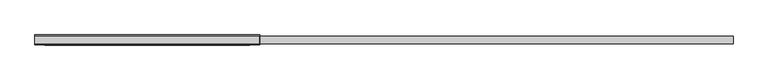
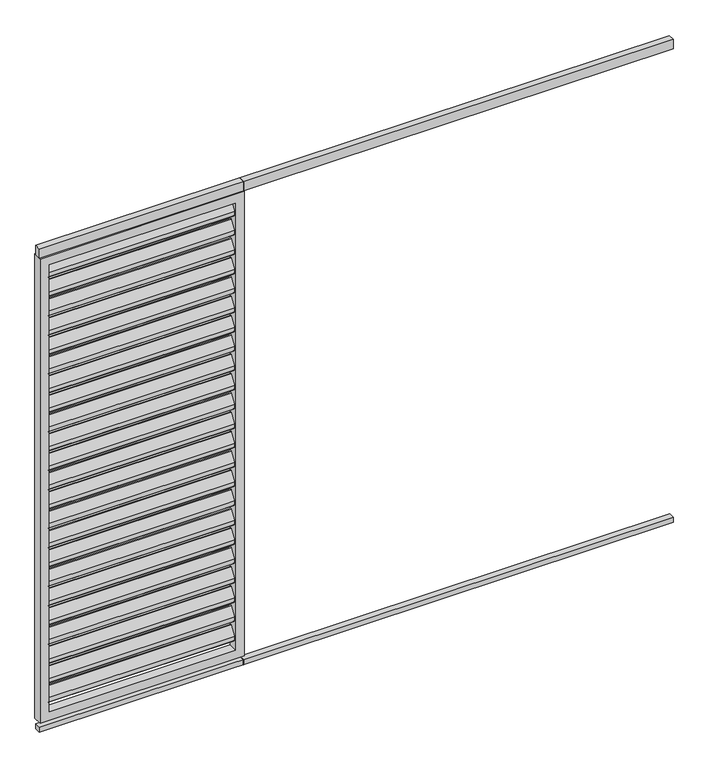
"""IFC4 building model written with IfcOpenShell, lengths in millimetres: proxy geometry, Renson_Camargue_Loggia_Paro_Aluminium : Renson_Camargue_Loggia_Paro_Aluminium."""

from ifc_helpers import new_model, si_unit, point, frame, frame_2d, origin, origin_with_axes, place, context, project, spatial, polyline, circle_curve, trimmed, segment, composite_curve, outline, extrude, source, transform, mapped, element, save


def generic_models_86cdeedc(model_context):
    return source(origin(), model_context, "Body", "SweptSolid", [
        extrude(outline(composite_curve([segment(trimmed(circle_curve(frame_2d((12.6675921, 2162.6587719)), 3.0), [point((10.1515804, 2164.292689))], [point((15.6675921, 2162.6587719))], False, "CARTESIAN"), True, "CONTINUOUS"), segment(polyline([(15.6675921, 2162.6587719), (15.6675921, 2144.2979873)]), True, "CONTINUOUS"), segment(trimmed(circle_curve(frame_2d((12.6675921, 2144.2979873)), 3.0), [point((15.6675921, 2144.2979873))], [point((15.1836038, 2142.6640702))], False, "CARTESIAN"), True, "CONTINUOUS"), segment(polyline([(15.1836038, 2142.6640702), (-8.8163962, 2105.707311)]), True, "CONTINUOUS"), segment(trimmed(circle_curve(frame_2d((-11.3324079, 2107.3412281)), 3.0), [point((-8.8163962, 2105.707311))], [point((-14.3324079, 2107.3412281))], False, "CARTESIAN"), True, "CONTINUOUS"), segment(polyline([(-14.3324079, 2107.3412281), (-14.3324079, 2126.5906532), (10.1515804, 2164.292689)]), True, "CONTINUOUS")], self_intersect=False)), frame((-410.0, 0.0, 0.0), z_axis=(1.0, 0.0, 0.0), x_axis=(0.0, 1.0, 0.0)), (0.0, 0.0, 1.0), 820.0),
        extrude(outline(composite_curve([segment(trimmed(circle_curve(frame_2d((12.6675921, 2072.6587719)), 3.0), [point((10.1515804, 2074.292689))], [point((15.6675921, 2072.6587719))], False, "CARTESIAN"), True, "CONTINUOUS"), segment(polyline([(15.6675921, 2072.6587719), (15.6675921, 2054.2979873)]), True, "CONTINUOUS"), segment(trimmed(circle_curve(frame_2d((12.6675921, 2054.2979873)), 3.0), [point((15.6675921, 2054.2979873))], [point((15.1836038, 2052.6640702))], False, "CARTESIAN"), True, "CONTINUOUS"), segment(polyline([(15.1836038, 2052.6640702), (-8.8163962, 2015.707311)]), True, "CONTINUOUS"), segment(trimmed(circle_curve(frame_2d((-11.3324079, 2017.3412281)), 3.0), [point((-8.8163962, 2015.707311))], [point((-14.3324079, 2017.3412281))], False, "CARTESIAN"), True, "CONTINUOUS"), segment(polyline([(-14.3324079, 2017.3412281), (-14.3324079, 2036.5906532), (10.1515804, 2074.292689)]), True, "CONTINUOUS")], self_intersect=False)), frame((-410.0, 0.0, 0.0), z_axis=(1.0, 0.0, 0.0), x_axis=(0.0, 1.0, 0.0)), (0.0, 0.0, 1.0), 820.0),
        extrude(outline(composite_curve([segment(trimmed(circle_curve(frame_2d((12.6675921, 1982.6587719)), 3.0), [point((10.1515804, 1984.292689))], [point((15.6675921, 1982.6587719))], False, "CARTESIAN"), True, "CONTINUOUS"), segment(polyline([(15.6675921, 1982.6587719), (15.6675921, 1964.2979873)]), True, "CONTINUOUS"), segment(trimmed(circle_curve(frame_2d((12.6675921, 1964.2979873)), 3.0), [point((15.6675921, 1964.2979873))], [point((15.1836038, 1962.6640702))], False, "CARTESIAN"), True, "CONTINUOUS"), segment(polyline([(15.1836038, 1962.6640702), (-8.8163962, 1925.707311)]), True, "CONTINUOUS"), segment(trimmed(circle_curve(frame_2d((-11.3324079, 1927.3412281)), 3.0), [point((-8.8163962, 1925.707311))], [point((-14.3324079, 1927.3412281))], False, "CARTESIAN"), True, "CONTINUOUS"), segment(polyline([(-14.3324079, 1927.3412281), (-14.3324079, 1946.5906532), (10.1515804, 1984.292689)]), True, "CONTINUOUS")], self_intersect=False)), frame((-410.0, 0.0, 0.0), z_axis=(1.0, 0.0, 0.0), x_axis=(0.0, 1.0, 0.0)), (0.0, 0.0, 1.0), 820.0),
        extrude(outline(composite_curve([segment(trimmed(circle_curve(frame_2d((12.6675921, 1892.6587719)), 3.0), [point((10.1515804, 1894.292689))], [point((15.6675921, 1892.6587719))], False, "CARTESIAN"), True, "CONTINUOUS"), segment(polyline([(15.6675921, 1892.6587719), (15.6675921, 1874.2979873)]), True, "CONTINUOUS"), segment(trimmed(circle_curve(frame_2d((12.6675921, 1874.2979873)), 3.0), [point((15.6675921, 1874.2979873))], [point((15.1836038, 1872.6640702))], False, "CARTESIAN"), True, "CONTINUOUS"), segment(polyline([(15.1836038, 1872.6640702), (-8.8163962, 1835.707311)]), True, "CONTINUOUS"), segment(trimmed(circle_curve(frame_2d((-11.3324079, 1837.3412281)), 3.0), [point((-8.8163962, 1835.707311))], [point((-14.3324079, 1837.3412281))], False, "CARTESIAN"), True, "CONTINUOUS"), segment(polyline([(-14.3324079, 1837.3412281), (-14.3324079, 1856.5906532), (10.1515804, 1894.292689)]), True, "CONTINUOUS")], self_intersect=False)), frame((-410.0, 0.0, 0.0), z_axis=(1.0, 0.0, 0.0), x_axis=(0.0, 1.0, 0.0)), (0.0, 0.0, 1.0), 820.0),
        extrude(outline(composite_curve([segment(trimmed(circle_curve(frame_2d((12.6675921, 1802.6587719)), 3.0), [point((10.1515804, 1804.292689))], [point((15.6675921, 1802.6587719))], False, "CARTESIAN"), True, "CONTINUOUS"), segment(polyline([(15.6675921, 1802.6587719), (15.6675921, 1784.2979873)]), True, "CONTINUOUS"), segment(trimmed(circle_curve(frame_2d((12.6675921, 1784.2979873)), 3.0), [point((15.6675921, 1784.2979873))], [point((15.1836038, 1782.6640702))], False, "CARTESIAN"), True, "CONTINUOUS"), segment(polyline([(15.1836038, 1782.6640702), (-8.8163962, 1745.707311)]), True, "CONTINUOUS"), segment(trimmed(circle_curve(frame_2d((-11.3324079, 1747.3412281)), 3.0), [point((-8.8163962, 1745.707311))], [point((-14.3324079, 1747.3412281))], False, "CARTESIAN"), True, "CONTINUOUS"), segment(polyline([(-14.3324079, 1747.3412281), (-14.3324079, 1766.5906532), (10.1515804, 1804.292689)]), True, "CONTINUOUS")], self_intersect=False)), frame((-410.0, 0.0, 0.0), z_axis=(1.0, 0.0, 0.0), x_axis=(0.0, 1.0, 0.0)), (0.0, 0.0, 1.0), 820.0),
        extrude(outline(composite_curve([segment(trimmed(circle_curve(frame_2d((12.6675921, 1712.6587719)), 3.0), [point((10.1515804, 1714.292689))], [point((15.6675921, 1712.6587719))], False, "CARTESIAN"), True, "CONTINUOUS"), segment(polyline([(15.6675921, 1712.6587719), (15.6675921, 1694.2979873)]), True, "CONTINUOUS"), segment(trimmed(circle_curve(frame_2d((12.6675921, 1694.2979873)), 3.0), [point((15.6675921, 1694.2979873))], [point((15.1836038, 1692.6640702))], False, "CARTESIAN"), True, "CONTINUOUS"), segment(polyline([(15.1836038, 1692.6640702), (-8.8163962, 1655.707311)]), True, "CONTINUOUS"), segment(trimmed(circle_curve(frame_2d((-11.3324079, 1657.3412281)), 3.0), [point((-8.8163962, 1655.707311))], [point((-14.3324079, 1657.3412281))], False, "CARTESIAN"), True, "CONTINUOUS"), segment(polyline([(-14.3324079, 1657.3412281), (-14.3324079, 1676.5906532), (10.1515804, 1714.292689)]), True, "CONTINUOUS")], self_intersect=False)), frame((-410.0, 0.0, 0.0), z_axis=(1.0, 0.0, 0.0), x_axis=(0.0, 1.0, 0.0)), (0.0, 0.0, 1.0), 820.0),
        extrude(outline(composite_curve([segment(trimmed(circle_curve(frame_2d((12.6675921, 1622.6587719)), 3.0), [point((10.1515804, 1624.292689))], [point((15.6675921, 1622.6587719))], False, "CARTESIAN"), True, "CONTINUOUS"), segment(polyline([(15.6675921, 1622.6587719), (15.6675921, 1604.2979873)]), True, "CONTINUOUS"), segment(trimmed(circle_curve(frame_2d((12.6675921, 1604.2979873)), 3.0), [point((15.6675921, 1604.2979873))], [point((15.1836038, 1602.6640702))], False, "CARTESIAN"), True, "CONTINUOUS"), segment(polyline([(15.1836038, 1602.6640702), (-8.8163962, 1565.707311)]), True, "CONTINUOUS"), segment(trimmed(circle_curve(frame_2d((-11.3324079, 1567.3412281)), 3.0), [point((-8.8163962, 1565.707311))], [point((-14.3324079, 1567.3412281))], False, "CARTESIAN"), True, "CONTINUOUS"), segment(polyline([(-14.3324079, 1567.3412281), (-14.3324079, 1586.5906532), (10.1515804, 1624.292689)]), True, "CONTINUOUS")], self_intersect=False)), frame((-410.0, 0.0, 0.0), z_axis=(1.0, 0.0, 0.0), x_axis=(0.0, 1.0, 0.0)), (0.0, 0.0, 1.0), 820.0),
        extrude(outline(composite_curve([segment(trimmed(circle_curve(frame_2d((12.6675921, 1532.6587719)), 3.0), [point((10.1515804, 1534.292689))], [point((15.6675921, 1532.6587719))], False, "CARTESIAN"), True, "CONTINUOUS"), segment(polyline([(15.6675921, 1532.6587719), (15.6675921, 1514.2979873)]), True, "CONTINUOUS"), segment(trimmed(circle_curve(frame_2d((12.6675921, 1514.2979873)), 3.0), [point((15.6675921, 1514.2979873))], [point((15.1836038, 1512.6640702))], False, "CARTESIAN"), True, "CONTINUOUS"), segment(polyline([(15.1836038, 1512.6640702), (-8.8163962, 1475.707311)]), True, "CONTINUOUS"), segment(trimmed(circle_curve(frame_2d((-11.3324079, 1477.3412281)), 3.0), [point((-8.8163962, 1475.707311))], [point((-14.3324079, 1477.3412281))], False, "CARTESIAN"), True, "CONTINUOUS"), segment(polyline([(-14.3324079, 1477.3412281), (-14.3324079, 1496.5906532), (10.1515804, 1534.292689)]), True, "CONTINUOUS")], self_intersect=False)), frame((-410.0, 0.0, 0.0), z_axis=(1.0, 0.0, 0.0), x_axis=(0.0, 1.0, 0.0)), (0.0, 0.0, 1.0), 820.0),
        extrude(outline(composite_curve([segment(trimmed(circle_curve(frame_2d((12.6675921, 1442.6587719)), 3.0), [point((10.1515804, 1444.292689))], [point((15.6675921, 1442.6587719))], False, "CARTESIAN"), True, "CONTINUOUS"), segment(polyline([(15.6675921, 1442.6587719), (15.6675921, 1424.2979873)]), True, "CONTINUOUS"), segment(trimmed(circle_curve(frame_2d((12.6675921, 1424.2979873)), 3.0), [point((15.6675921, 1424.2979873))], [point((15.1836038, 1422.6640702))], False, "CARTESIAN"), True, "CONTINUOUS"), segment(polyline([(15.1836038, 1422.6640702), (-8.8163962, 1385.707311)]), True, "CONTINUOUS"), segment(trimmed(circle_curve(frame_2d((-11.3324079, 1387.3412281)), 3.0), [point((-8.8163962, 1385.707311))], [point((-14.3324079, 1387.3412281))], False, "CARTESIAN"), True, "CONTINUOUS"), segment(polyline([(-14.3324079, 1387.3412281), (-14.3324079, 1406.5906532), (10.1515804, 1444.292689)]), True, "CONTINUOUS")], self_intersect=False)), frame((-410.0, 0.0, 0.0), z_axis=(1.0, 0.0, 0.0), x_axis=(0.0, 1.0, 0.0)), (0.0, 0.0, 1.0), 820.0),
        extrude(outline(composite_curve([segment(trimmed(circle_curve(frame_2d((12.6675921, 1352.6587719)), 3.0), [point((10.1515804, 1354.292689))], [point((15.6675921, 1352.6587719))], False, "CARTESIAN"), True, "CONTINUOUS"), segment(polyline([(15.6675921, 1352.6587719), (15.6675921, 1334.2979873)]), True, "CONTINUOUS"), segment(trimmed(circle_curve(frame_2d((12.6675921, 1334.2979873)), 3.0), [point((15.6675921, 1334.2979873))], [point((15.1836038, 1332.6640702))], False, "CARTESIAN"), True, "CONTINUOUS"), segment(polyline([(15.1836038, 1332.6640702), (-8.8163962, 1295.707311)]), True, "CONTINUOUS"), segment(trimmed(circle_curve(frame_2d((-11.3324079, 1297.3412281)), 3.0), [point((-8.8163962, 1295.707311))], [point((-14.3324079, 1297.3412281))], False, "CARTESIAN"), True, "CONTINUOUS"), segment(polyline([(-14.3324079, 1297.3412281), (-14.3324079, 1316.5906532), (10.1515804, 1354.292689)]), True, "CONTINUOUS")], self_intersect=False)), frame((-410.0, 0.0, 0.0), z_axis=(1.0, 0.0, 0.0), x_axis=(0.0, 1.0, 0.0)), (0.0, 0.0, 1.0), 820.0),
        extrude(outline(composite_curve([segment(trimmed(circle_curve(frame_2d((12.6675921, 1262.6587719)), 3.0), [point((10.1515804, 1264.292689))], [point((15.6675921, 1262.6587719))], False, "CARTESIAN"), True, "CONTINUOUS"), segment(polyline([(15.6675921, 1262.6587719), (15.6675921, 1244.2979873)]), True, "CONTINUOUS"), segment(trimmed(circle_curve(frame_2d((12.6675921, 1244.2979873)), 3.0), [point((15.6675921, 1244.2979873))], [point((15.1836038, 1242.6640702))], False, "CARTESIAN"), True, "CONTINUOUS"), segment(polyline([(15.1836038, 1242.6640702), (-8.8163962, 1205.707311)]), True, "CONTINUOUS"), segment(trimmed(circle_curve(frame_2d((-11.3324079, 1207.3412281)), 3.0), [point((-8.8163962, 1205.707311))], [point((-14.3324079, 1207.3412281))], False, "CARTESIAN"), True, "CONTINUOUS"), segment(polyline([(-14.3324079, 1207.3412281), (-14.3324079, 1226.5906532), (10.1515804, 1264.292689)]), True, "CONTINUOUS")], self_intersect=False)), frame((-410.0, 0.0, 0.0), z_axis=(1.0, 0.0, 0.0), x_axis=(0.0, 1.0, 0.0)), (0.0, 0.0, 1.0), 820.0),
        extrude(outline(composite_curve([segment(trimmed(circle_curve(frame_2d((12.6675921, 1172.6587719)), 3.0), [point((10.1515804, 1174.292689))], [point((15.6675921, 1172.6587719))], False, "CARTESIAN"), True, "CONTINUOUS"), segment(polyline([(15.6675921, 1172.6587719), (15.6675921, 1154.2979873)]), True, "CONTINUOUS"), segment(trimmed(circle_curve(frame_2d((12.6675921, 1154.2979873)), 3.0), [point((15.6675921, 1154.2979873))], [point((15.1836038, 1152.6640702))], False, "CARTESIAN"), True, "CONTINUOUS"), segment(polyline([(15.1836038, 1152.6640702), (-8.8163962, 1115.707311)]), True, "CONTINUOUS"), segment(trimmed(circle_curve(frame_2d((-11.3324079, 1117.3412281)), 3.0), [point((-8.8163962, 1115.707311))], [point((-14.3324079, 1117.3412281))], False, "CARTESIAN"), True, "CONTINUOUS"), segment(polyline([(-14.3324079, 1117.3412281), (-14.3324079, 1136.5906532), (10.1515804, 1174.292689)]), True, "CONTINUOUS")], self_intersect=False)), frame((-410.0, 0.0, 0.0), z_axis=(1.0, 0.0, 0.0), x_axis=(0.0, 1.0, 0.0)), (0.0, 0.0, 1.0), 820.0),
        extrude(outline(composite_curve([segment(trimmed(circle_curve(frame_2d((12.6675921, 1082.6587719)), 3.0), [point((10.1515804, 1084.292689))], [point((15.6675921, 1082.6587719))], False, "CARTESIAN"), True, "CONTINUOUS"), segment(polyline([(15.6675921, 1082.6587719), (15.6675921, 1064.2979873)]), True, "CONTINUOUS"), segment(trimmed(circle_curve(frame_2d((12.6675921, 1064.2979873)), 3.0), [point((15.6675921, 1064.2979873))], [point((15.1836038, 1062.6640702))], False, "CARTESIAN"), True, "CONTINUOUS"), segment(polyline([(15.1836038, 1062.6640702), (-8.8163962, 1025.707311)]), True, "CONTINUOUS"), segment(trimmed(circle_curve(frame_2d((-11.3324079, 1027.3412281)), 3.0), [point((-8.8163962, 1025.707311))], [point((-14.3324079, 1027.3412281))], False, "CARTESIAN"), True, "CONTINUOUS"), segment(polyline([(-14.3324079, 1027.3412281), (-14.3324079, 1046.5906532), (10.1515804, 1084.292689)]), True, "CONTINUOUS")], self_intersect=False)), frame((-410.0, 0.0, 0.0), z_axis=(1.0, 0.0, 0.0), x_axis=(0.0, 1.0, 0.0)), (0.0, 0.0, 1.0), 820.0),
        extrude(outline(composite_curve([segment(trimmed(circle_curve(frame_2d((12.6675921, 992.6587719)), 3.0), [point((10.1515804, 994.292689))], [point((15.6675921, 992.6587719))], False, "CARTESIAN"), True, "CONTINUOUS"), segment(polyline([(15.6675921, 992.6587719), (15.6675921, 974.2979873)]), True, "CONTINUOUS"), segment(trimmed(circle_curve(frame_2d((12.6675921, 974.2979873)), 3.0), [point((15.6675921, 974.2979873))], [point((15.1836038, 972.6640702))], False, "CARTESIAN"), True, "CONTINUOUS"), segment(polyline([(15.1836038, 972.6640702), (-8.8163962, 935.707311)]), True, "CONTINUOUS"), segment(trimmed(circle_curve(frame_2d((-11.3324079, 937.3412281)), 3.0), [point((-8.8163962, 935.707311))], [point((-14.3324079, 937.3412281))], False, "CARTESIAN"), True, "CONTINUOUS"), segment(polyline([(-14.3324079, 937.3412281), (-14.3324079, 956.5906532), (10.1515804, 994.292689)]), True, "CONTINUOUS")], self_intersect=False)), frame((-410.0, 0.0, 0.0), z_axis=(1.0, 0.0, 0.0), x_axis=(0.0, 1.0, 0.0)), (0.0, 0.0, 1.0), 820.0),
        extrude(outline(composite_curve([segment(trimmed(circle_curve(frame_2d((12.6675921, 902.6587719)), 3.0), [point((10.1515804, 904.292689))], [point((15.6675921, 902.6587719))], False, "CARTESIAN"), True, "CONTINUOUS"), segment(polyline([(15.6675921, 902.6587719), (15.6675921, 884.2979873)]), True, "CONTINUOUS"), segment(trimmed(circle_curve(frame_2d((12.6675921, 884.2979873)), 3.0), [point((15.6675921, 884.2979873))], [point((15.1836038, 882.6640702))], False, "CARTESIAN"), True, "CONTINUOUS"), segment(polyline([(15.1836038, 882.6640702), (-8.8163962, 845.707311)]), True, "CONTINUOUS"), segment(trimmed(circle_curve(frame_2d((-11.3324079, 847.3412281)), 3.0), [point((-8.8163962, 845.707311))], [point((-14.3324079, 847.3412281))], False, "CARTESIAN"), True, "CONTINUOUS"), segment(polyline([(-14.3324079, 847.3412281), (-14.3324079, 866.5906532), (10.1515804, 904.292689)]), True, "CONTINUOUS")], self_intersect=False)), frame((-410.0, 0.0, 0.0), z_axis=(1.0, 0.0, 0.0), x_axis=(0.0, 1.0, 0.0)), (0.0, 0.0, 1.0), 820.0),
        extrude(outline(composite_curve([segment(trimmed(circle_curve(frame_2d((12.6675921, 812.6587719)), 3.0), [point((10.1515804, 814.292689))], [point((15.6675921, 812.6587719))], False, "CARTESIAN"), True, "CONTINUOUS"), segment(polyline([(15.6675921, 812.6587719), (15.6675921, 794.2979873)]), True, "CONTINUOUS"), segment(trimmed(circle_curve(frame_2d((12.6675921, 794.2979873)), 3.0), [point((15.6675921, 794.2979873))], [point((15.1836038, 792.6640702))], False, "CARTESIAN"), True, "CONTINUOUS"), segment(polyline([(15.1836038, 792.6640702), (-8.8163962, 755.707311)]), True, "CONTINUOUS"), segment(trimmed(circle_curve(frame_2d((-11.3324079, 757.3412281)), 3.0), [point((-8.8163962, 755.707311))], [point((-14.3324079, 757.3412281))], False, "CARTESIAN"), True, "CONTINUOUS"), segment(polyline([(-14.3324079, 757.3412281), (-14.3324079, 776.5906532), (10.1515804, 814.292689)]), True, "CONTINUOUS")], self_intersect=False)), frame((-410.0, 0.0, 0.0), z_axis=(1.0, 0.0, 0.0), x_axis=(0.0, 1.0, 0.0)), (0.0, 0.0, 1.0), 820.0),
        extrude(outline(composite_curve([segment(trimmed(circle_curve(frame_2d((12.6675921, 722.6587719)), 3.0), [point((10.1515804, 724.292689))], [point((15.6675921, 722.6587719))], False, "CARTESIAN"), True, "CONTINUOUS"), segment(polyline([(15.6675921, 722.6587719), (15.6675921, 704.2979873)]), True, "CONTINUOUS"), segment(trimmed(circle_curve(frame_2d((12.6675921, 704.2979873)), 3.0), [point((15.6675921, 704.2979873))], [point((15.1836038, 702.6640702))], False, "CARTESIAN"), True, "CONTINUOUS"), segment(polyline([(15.1836038, 702.6640702), (-8.8163962, 665.707311)]), True, "CONTINUOUS"), segment(trimmed(circle_curve(frame_2d((-11.3324079, 667.3412281)), 3.0), [point((-8.8163962, 665.707311))], [point((-14.3324079, 667.3412281))], False, "CARTESIAN"), True, "CONTINUOUS"), segment(polyline([(-14.3324079, 667.3412281), (-14.3324079, 686.5906532), (10.1515804, 724.292689)]), True, "CONTINUOUS")], self_intersect=False)), frame((-410.0, 0.0, 0.0), z_axis=(1.0, 0.0, 0.0), x_axis=(0.0, 1.0, 0.0)), (0.0, 0.0, 1.0), 820.0),
        extrude(outline(composite_curve([segment(trimmed(circle_curve(frame_2d((12.6675921, 632.6587719)), 3.0), [point((10.1515804, 634.292689))], [point((15.6675921, 632.6587719))], False, "CARTESIAN"), True, "CONTINUOUS"), segment(polyline([(15.6675921, 632.6587719), (15.6675921, 614.2979873)]), True, "CONTINUOUS"), segment(trimmed(circle_curve(frame_2d((12.6675921, 614.2979873)), 3.0), [point((15.6675921, 614.2979873))], [point((15.1836038, 612.6640702))], False, "CARTESIAN"), True, "CONTINUOUS"), segment(polyline([(15.1836038, 612.6640702), (-8.8163962, 575.707311)]), True, "CONTINUOUS"), segment(trimmed(circle_curve(frame_2d((-11.3324079, 577.3412281)), 3.0), [point((-8.8163962, 575.707311))], [point((-14.3324079, 577.3412281))], False, "CARTESIAN"), True, "CONTINUOUS"), segment(polyline([(-14.3324079, 577.3412281), (-14.3324079, 596.5906532), (10.1515804, 634.292689)]), True, "CONTINUOUS")], self_intersect=False)), frame((-410.0, 0.0, 0.0), z_axis=(1.0, 0.0, 0.0), x_axis=(0.0, 1.0, 0.0)), (0.0, 0.0, 1.0), 820.0),
        extrude(outline(composite_curve([segment(trimmed(circle_curve(frame_2d((12.6675921, 542.6587719)), 3.0), [point((10.1515804, 544.292689))], [point((15.6675921, 542.6587719))], False, "CARTESIAN"), True, "CONTINUOUS"), segment(polyline([(15.6675921, 542.6587719), (15.6675921, 524.2979873)]), True, "CONTINUOUS"), segment(trimmed(circle_curve(frame_2d((12.6675921, 524.2979873)), 3.0), [point((15.6675921, 524.2979873))], [point((15.1836038, 522.6640702))], False, "CARTESIAN"), True, "CONTINUOUS"), segment(polyline([(15.1836038, 522.6640702), (-8.8163962, 485.707311)]), True, "CONTINUOUS"), segment(trimmed(circle_curve(frame_2d((-11.3324079, 487.3412281)), 3.0), [point((-8.8163962, 485.707311))], [point((-14.3324079, 487.3412281))], False, "CARTESIAN"), True, "CONTINUOUS"), segment(polyline([(-14.3324079, 487.3412281), (-14.3324079, 506.5906532), (10.1515804, 544.292689)]), True, "CONTINUOUS")], self_intersect=False)), frame((-410.0, 0.0, 0.0), z_axis=(1.0, 0.0, 0.0), x_axis=(0.0, 1.0, 0.0)), (0.0, 0.0, 1.0), 820.0),
        extrude(outline(composite_curve([segment(trimmed(circle_curve(frame_2d((12.6675921, 452.6587719)), 3.0), [point((10.1515804, 454.292689))], [point((15.6675921, 452.6587719))], False, "CARTESIAN"), True, "CONTINUOUS"), segment(polyline([(15.6675921, 452.6587719), (15.6675921, 434.2979873)]), True, "CONTINUOUS"), segment(trimmed(circle_curve(frame_2d((12.6675921, 434.2979873)), 3.0), [point((15.6675921, 434.2979873))], [point((15.1836038, 432.6640702))], False, "CARTESIAN"), True, "CONTINUOUS"), segment(polyline([(15.1836038, 432.6640702), (-8.8163962, 395.707311)]), True, "CONTINUOUS"), segment(trimmed(circle_curve(frame_2d((-11.3324079, 397.3412281)), 3.0), [point((-8.8163962, 395.707311))], [point((-14.3324079, 397.3412281))], False, "CARTESIAN"), True, "CONTINUOUS"), segment(polyline([(-14.3324079, 397.3412281), (-14.3324079, 416.5906532), (10.1515804, 454.292689)]), True, "CONTINUOUS")], self_intersect=False)), frame((-410.0, 0.0, 0.0), z_axis=(1.0, 0.0, 0.0), x_axis=(0.0, 1.0, 0.0)), (0.0, 0.0, 1.0), 820.0),
        extrude(outline(composite_curve([segment(trimmed(circle_curve(frame_2d((12.6675921, 362.6587719)), 3.0), [point((10.1515804, 364.292689))], [point((15.6675921, 362.6587719))], False, "CARTESIAN"), True, "CONTINUOUS"), segment(polyline([(15.6675921, 362.6587719), (15.6675921, 344.2979873)]), True, "CONTINUOUS"), segment(trimmed(circle_curve(frame_2d((12.6675921, 344.2979873)), 3.0), [point((15.6675921, 344.2979873))], [point((15.1836038, 342.6640702))], False, "CARTESIAN"), True, "CONTINUOUS"), segment(polyline([(15.1836038, 342.6640702), (-8.8163962, 305.707311)]), True, "CONTINUOUS"), segment(trimmed(circle_curve(frame_2d((-11.3324079, 307.3412281)), 3.0), [point((-8.8163962, 305.707311))], [point((-14.3324079, 307.3412281))], False, "CARTESIAN"), True, "CONTINUOUS"), segment(polyline([(-14.3324079, 307.3412281), (-14.3324079, 326.5906532), (10.1515804, 364.292689)]), True, "CONTINUOUS")], self_intersect=False)), frame((-410.0, 0.0, 0.0), z_axis=(1.0, 0.0, 0.0), x_axis=(0.0, 1.0, 0.0)), (0.0, 0.0, 1.0), 820.0),
        extrude(outline(composite_curve([segment(trimmed(circle_curve(frame_2d((12.6675921, 272.6587719)), 3.0), [point((10.1515804, 274.292689))], [point((15.6675921, 272.6587719))], False, "CARTESIAN"), True, "CONTINUOUS"), segment(polyline([(15.6675921, 272.6587719), (15.6675921, 254.2979873)]), True, "CONTINUOUS"), segment(trimmed(circle_curve(frame_2d((12.6675921, 254.2979873)), 3.0), [point((15.6675921, 254.2979873))], [point((15.1836038, 252.6640702))], False, "CARTESIAN"), True, "CONTINUOUS"), segment(polyline([(15.1836038, 252.6640702), (-8.8163962, 215.707311)]), True, "CONTINUOUS"), segment(trimmed(circle_curve(frame_2d((-11.3324079, 217.3412281)), 3.0), [point((-8.8163962, 215.707311))], [point((-14.3324079, 217.3412281))], False, "CARTESIAN"), True, "CONTINUOUS"), segment(polyline([(-14.3324079, 217.3412281), (-14.3324079, 236.5906532), (10.1515804, 274.292689)]), True, "CONTINUOUS")], self_intersect=False)), frame((-410.0, 0.0, 0.0), z_axis=(1.0, 0.0, 0.0), x_axis=(0.0, 1.0, 0.0)), (0.0, 0.0, 1.0), 820.0),
        extrude(outline(composite_curve([segment(trimmed(circle_curve(frame_2d((12.6675921, 182.6587719)), 3.0), [point((10.1515804, 184.292689))], [point((15.6675921, 182.6587719))], False, "CARTESIAN"), True, "CONTINUOUS"), segment(polyline([(15.6675921, 182.6587719), (15.6675921, 164.2979873)]), True, "CONTINUOUS"), segment(trimmed(circle_curve(frame_2d((12.6675921, 164.2979873)), 3.0), [point((15.6675921, 164.2979873))], [point((15.1836038, 162.6640702))], False, "CARTESIAN"), True, "CONTINUOUS"), segment(polyline([(15.1836038, 162.6640702), (-8.8163962, 125.707311)]), True, "CONTINUOUS"), segment(trimmed(circle_curve(frame_2d((-11.3324079, 127.3412281)), 3.0), [point((-8.8163962, 125.707311))], [point((-14.3324079, 127.3412281))], False, "CARTESIAN"), True, "CONTINUOUS"), segment(polyline([(-14.3324079, 127.3412281), (-14.3324079, 146.5906532), (10.1515804, 184.292689)]), True, "CONTINUOUS")], self_intersect=False)), frame((-410.0, 0.0, 0.0), z_axis=(1.0, 0.0, 0.0), x_axis=(0.0, 1.0, 0.0)), (0.0, 0.0, 1.0), 820.0),
        extrude(outline(polyline([(450.0, 15.0), (450.0, -15.0), (449.0, -15.0), (449.0, 15.0), (450.0, 15.0)])), frame((0.0, 0.0, 2207.7138321), z_axis=(0.0, 0.0, 1.0), x_axis=(1.0, 0.0, 0.0)), (0.0, 0.0, 1.0), 42.2861679),
        extrude(outline(polyline([(2343.0, 15.0), (2343.0, -15.0), (-450.0, -15.0), (-450.0, 15.0), (2343.0, 15.0)])), frame((0.0, 0.0, 2207.7138321), z_axis=(0.0, 0.0, 1.0), x_axis=(1.0, 0.0, 0.0)), (0.0, 0.0, 1.0), 42.2861679),
        extrude(outline(polyline([(450.0, -13.0), (449.0, -13.0), (449.0, 14.0), (450.0, 14.0), (450.0, -13.0)])), origin_with_axes(), (0.0, 0.0, 1.0), 23.0),
        extrude(outline(polyline([(2343.0, -13.0), (-450.0, -13.0), (-450.0, 14.0), (2343.0, 14.0), (2343.0, -13.0)])), origin_with_axes(), (0.0, 0.0, 1.0), 23.0),
        extrude(outline(polyline([(2207.7138321, -450.0), (45.0, -450.0), (45.0, 450.0), (2207.7138321, 450.0), (2207.7138321, -450.0)]), holes=[polyline([(2167.7138321, 410.0), (85.0, 410.0), (85.0, -410.0), (2167.7138321, -410.0), (2167.7138321, 410.0)])]), frame((0.0, -20.0, 0.0), z_axis=(0.0, 1.0, 0.0), x_axis=(0.0, 0.0, 1.0)), (0.0, 0.0, 1.0), 40.0),
    ])


if __name__ == "__main__":
    model = new_model("IFC4")
    model_context = context("Model", 3, world=origin())
    ifc_project = project(units=[si_unit("LENGTHUNIT", "METRE", prefix="MILLI")], contexts=[model_context])
    site = spatial("IfcSite", under=ifc_project)
    building = spatial("IfcBuilding", under=site)
    placement = place(None, origin())
    generic_models_shape = generic_models_86cdeedc(model_context)
    element("IfcBuildingElementProxy", 1, Name="Renson_Camargue_Loggia_Paro_Aluminium : Renson_Camargue_Loggia_Paro_Aluminium", ObjectType="Renson_Camargue_Loggia_Paro_Aluminium : Renson_Camargue_Loggia_Paro_Aluminium", at=placement, inside=building, context=model_context, shape_type="MappedRepresentation", body=[
        mapped(generic_models_shape, transform((0.0, 0.0, 0.0), x_axis=(1.0, 0.0, 0.0), y_axis=(0.0, 1.0, 0.0), z_axis=(0.0, 0.0, 1.0))),
    ])
    save(model, "model.ifc")
